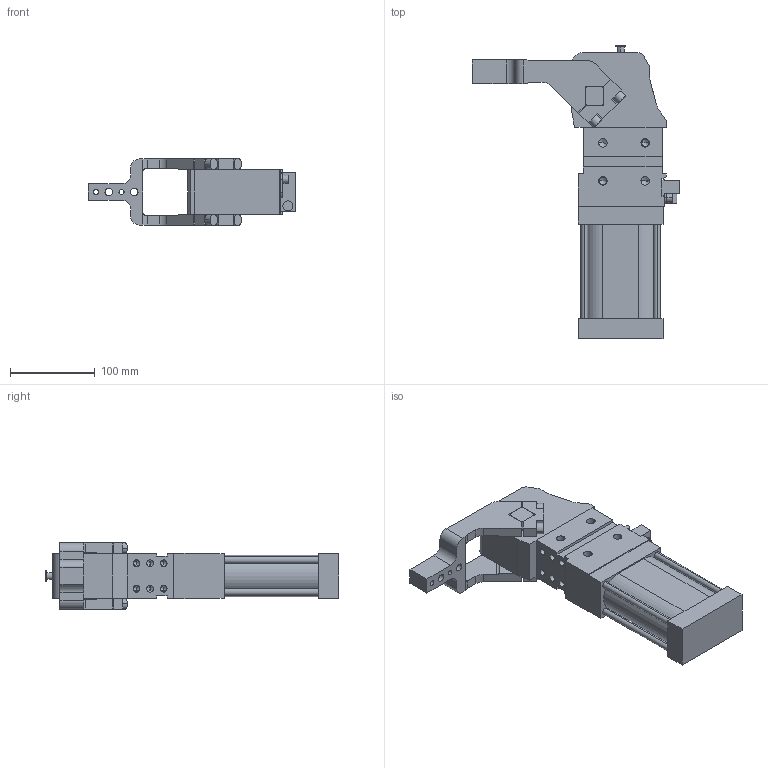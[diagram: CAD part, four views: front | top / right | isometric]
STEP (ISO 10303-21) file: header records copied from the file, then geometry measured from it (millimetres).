
FILE_DESCRIPTION (( 'STEP AP214' ), '1' );
FILE_NAME ('cpl63v1ci1g_135.STEP', '2023-01-26T10:25:24', ( '' ), ( '' ), 'SwSTEP 2.0', 'SolidWorks 2022', '' );
FILE_SCHEMA (( 'AUTOMOTIVE_DESIGN' ));
Length unit declared in the file: millimetre
Products named in the file (4): cpl63v1ci1g_135; leva_cx_offset_15_cpl63; blocchetto_VEP_0; meccanica_cpl_63
Assembly tree (3 placements, depth 2):
  cpl63v1ci1g_135
    meccanica_cpl_63
    blocchetto_VEP_0
    leva_cx_offset_15_cpl63
Bounding box: 244.5 x 347 x 79 mm (x, y, z)
Volume: 1779035.3 mm3; surface area: 187989.7 mm2
Topology: 3 solids, 3 shells, 396 faces, 1037 edges, 639 vertices
Faces by surface type: plane 198, cylinder 148, cone 50
Entity records: 13451 total; most frequent: DIRECTION 2119, CARTESIAN_POINT 2116, ORIENTED_EDGE 1982, EDGE_CURVE 991, AXIS2_PLACEMENT_3D 732, LINE 655, VECTOR 655, VERTEX_POINT 639
